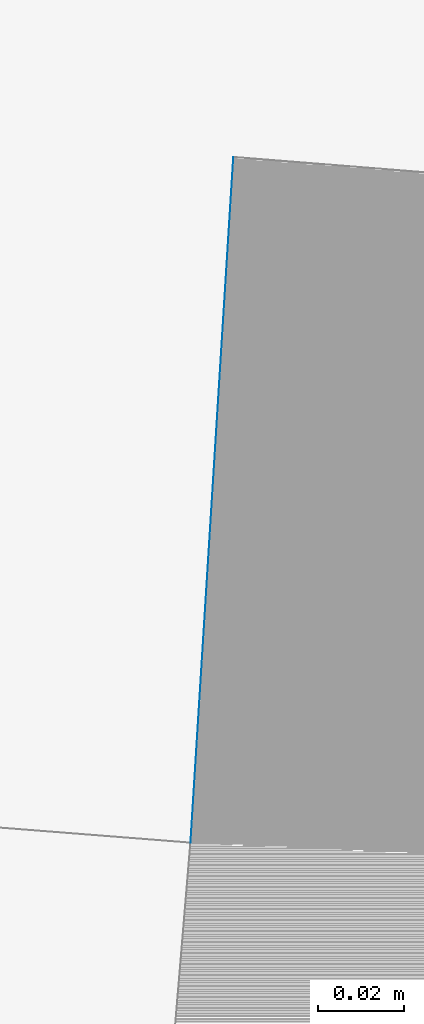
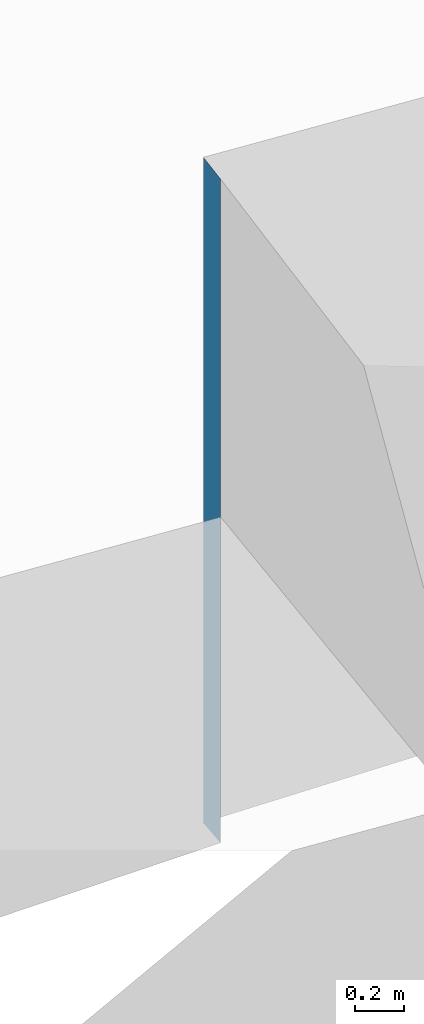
# Not in any storey, part 81 of 136: 1 wall.
"""IFC4 building model written with IfcOpenShell, lengths in metres."""

from ifc_helpers import new_model, entity, si_unit, converted_unit, origin, place, context, subcontext, project, spatial, face_set, surface_model, element, save


model = new_model("IFC4")

# Units and contexts
model_context = context("Model", 3, precision=1e-05, world=origin())
body_context = subcontext(model_context, "Body", "Model", "MODEL_VIEW")
ifc_project = project(units=[converted_unit("PLANEANGLEUNIT", "DEGREE", entity("IfcRatioMeasure", 0.0174532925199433), si_unit("PLANEANGLEUNIT", "RADIAN"), dimensions=[0, 0, 0, 0, 0, 0, 0]), si_unit("AREAUNIT", "SQUARE_METRE"), si_unit("LENGTHUNIT", "METRE")], contexts=[model_context])

# Site, building
site_placement = place(None, origin())
site = spatial("IfcSite", under=ifc_project, at=site_placement, Name="_site")
building_placement = place(site_placement, origin())
building = spatial("IfcBuilding", under=site, at=building_placement, Name="_building")

# Wall
wall_placement = place(building_placement, origin())
element("IfcWall", 1, at=wall_placement, inside=building, Name="Wall", PredefinedType="NOTDEFINED", context=body_context, shape_type="SurfaceModel", body=[
    surface_model("IfcFaceBasedSurfaceModel", [(228.34, 113.22, 51.54), (228.35, 113.38, 51.55), (228.35, 113.38, 48.22), (228.34, 113.22, 48.22)], [face_set([[[0, 1, 2, 3]]])]),
])

save(model, "model.ifc")
